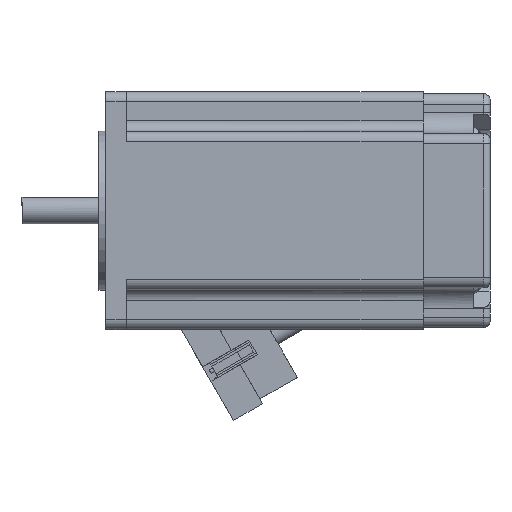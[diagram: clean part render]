
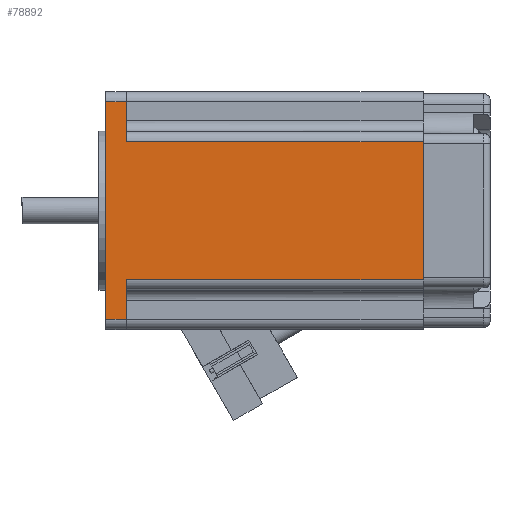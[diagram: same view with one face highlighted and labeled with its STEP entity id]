
A CAD part, front view. The second image highlights one B-rep face of the part: STEP entity #78892.
In plain terms, the highlighted planar face has unit normal (0, -1, 0).
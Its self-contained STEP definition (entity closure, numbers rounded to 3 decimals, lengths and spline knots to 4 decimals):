
#10076=LINE('',#124247,#20689);
#10077=LINE('',#124253,#20690);
#10091=LINE('',#124288,#20704);
#10098=LINE('',#124305,#20711);
#10117=LINE('',#124347,#20730);
#10118=LINE('',#124349,#20731);
#10119=LINE('',#124351,#20732);
#10120=LINE('',#124352,#20733);
#20689=VECTOR('',#100774,2.7953);
#20690=VECTOR('',#100779,2.7953);
#20704=VECTOR('',#100817,0.374);
#20711=VECTOR('',#100836,0.374);
#20730=VECTOR('',#100877,1.2992);
#20731=VECTOR('',#100878,0.1969);
#20732=VECTOR('',#100879,2.0472);
#20733=VECTOR('',#100880,0.1969);
#24940=PLANE('',#82955);
#28873=FACE_OUTER_BOUND('',#32841,.T.);
#32841=EDGE_LOOP('',(#73070,#73071,#73072,#73073,#73074,#73075,#73076,#73077));
#40721=VERTEX_POINT('',#124241);
#40723=VERTEX_POINT('',#124245);
#40724=VERTEX_POINT('',#124249);
#40726=VERTEX_POINT('',#124252);
#40735=VERTEX_POINT('',#124287);
#40739=VERTEX_POINT('',#124303);
#40752=VERTEX_POINT('',#124348);
#40753=VERTEX_POINT('',#124350);
#51610=EDGE_CURVE('',#40721,#40723,#10076,.T.);
#51612=EDGE_CURVE('',#40726,#40724,#10077,.T.);
#51631=EDGE_CURVE('',#40721,#40735,#10091,.T.);
#51641=EDGE_CURVE('',#40739,#40724,#10098,.T.);
#51664=EDGE_CURVE('',#40723,#40726,#10117,.T.);
#51665=EDGE_CURVE('',#40739,#40752,#10118,.T.);
#51666=EDGE_CURVE('',#40753,#40752,#10119,.T.);
#51667=EDGE_CURVE('',#40753,#40735,#10120,.T.);
#73070=ORIENTED_EDGE('',*,*,#51664,.T.);
#73071=ORIENTED_EDGE('',*,*,#51612,.T.);
#73072=ORIENTED_EDGE('',*,*,#51641,.F.);
#73073=ORIENTED_EDGE('',*,*,#51665,.T.);
#73074=ORIENTED_EDGE('',*,*,#51666,.F.);
#73075=ORIENTED_EDGE('',*,*,#51667,.T.);
#73076=ORIENTED_EDGE('',*,*,#51631,.F.);
#73077=ORIENTED_EDGE('',*,*,#51610,.T.);
#78892=ADVANCED_FACE('',(#28873),#24940,.F.);
#82955=AXIS2_PLACEMENT_3D('',#124346,#100875,#100876);
#100774=DIRECTION('',(1.,0.,0.));
#100779=DIRECTION('',(-1.,0.,0.));
#100817=DIRECTION('',(0.,0.,-1.));
#100836=DIRECTION('',(0.,0.,-1.));
#100875=DIRECTION('center_axis',(0.,1.,0.));
#100876=DIRECTION('ref_axis',(-1.,0.,0.));
#100877=DIRECTION('',(0.,0.,1.));
#100878=DIRECTION('',(-1.,0.,0.));
#100879=DIRECTION('',(0.,0.,1.));
#100880=DIRECTION('',(1.,0.,0.));
#124241=CARTESIAN_POINT('',(-2.7953,-1.1032,-0.8123));
#124245=CARTESIAN_POINT('',(0.,-1.1032,-0.8123));
#124247=CARTESIAN_POINT('',(-2.9921,-1.1032,-0.8123));
#124249=CARTESIAN_POINT('',(-2.7953,-1.1032,0.4869));
#124252=CARTESIAN_POINT('',(0.,-1.1032,0.4869));
#124253=CARTESIAN_POINT('',(-2.9921,-1.1032,0.4869));
#124287=CARTESIAN_POINT('',(-2.7953,-1.1032,-1.1863));
#124288=CARTESIAN_POINT('',(-2.7953,-1.1032,-0.9107));
#124303=CARTESIAN_POINT('',(-2.7953,-1.1032,0.8609));
#124305=CARTESIAN_POINT('',(-2.7953,-1.1032,0.8609));
#124346=CARTESIAN_POINT('Origin',(-2.9921,-1.1032,-1.2847));
#124347=CARTESIAN_POINT('',(0.,-1.1032,-1.2847));
#124348=CARTESIAN_POINT('',(-2.9921,-1.1032,0.8609));
#124349=CARTESIAN_POINT('',(-2.9921,-1.1032,0.8609));
#124350=CARTESIAN_POINT('',(-2.9921,-1.1032,-1.1863));
#124351=CARTESIAN_POINT('',(-2.9921,-1.1032,-1.2847));
#124352=CARTESIAN_POINT('',(-2.9921,-1.1032,-1.1863));
